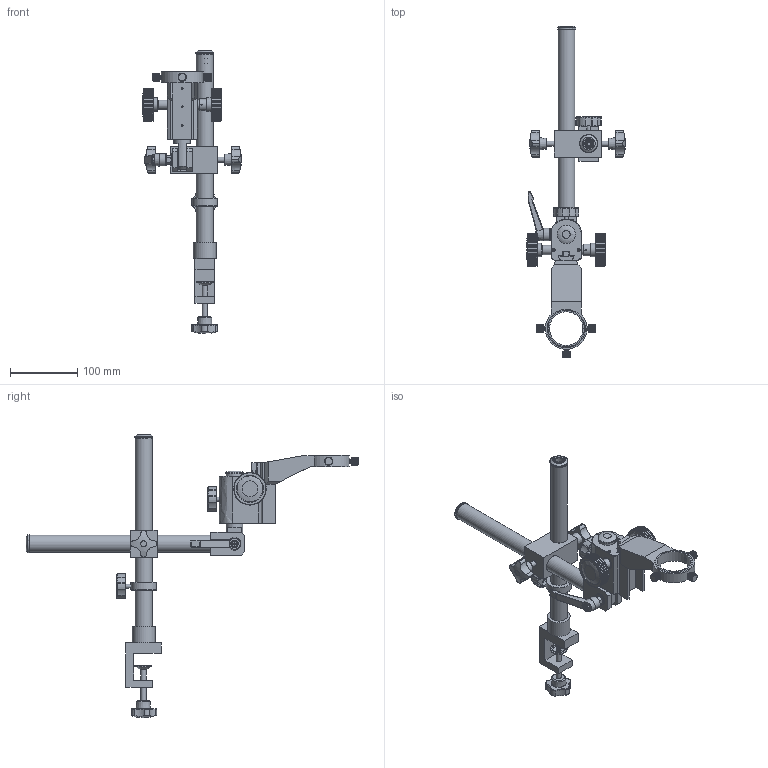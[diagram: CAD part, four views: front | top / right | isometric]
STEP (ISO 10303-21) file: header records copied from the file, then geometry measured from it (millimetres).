
FILE_DESCRIPTION(('STEP AP214'),'1');
FILE_NAME('GR-STD10.stp','2026-04-22T01:33:54',(' '),(' '),'Spatial InterOp 3D',' ',' ');
FILE_SCHEMA(('AUTOMOTIVE_DESIGN { 1 0 10303 214 1 1 1 1 }'));
Length unit declared in the file: metre
Products named in the file (6): GR-STD10; Component1; Component2; Component3; Component4; Component5
Assembly tree (5 placements, depth 2):
  GR-STD10
    Component1
    Component2
    Component3
    Component4
    Component5
Bounding box: 147.11 x 493.49 x 420.9 mm (x, y, z)
Volume: 695446.1 mm3; surface area: 263371.5 mm2
Topology: 12 solids, 13 shells, 3332 faces, 7983 edges, 4816 vertices
Faces by surface type: plane 2396, cylinder 653, bspline 155, torus 68, cone 53, sphere 7
Full cylindrical faces by diameter (mm): 1.5 x4, 2.5 x3, 3.9 x2, 4 x4, 4.6 x3, 4.8 x3, 5 x1, 5.5 x4, 5.7 x3, 5.8 x1, 6 x2, 6.5 x1, 6.9 x1, 7 x3, 7.3 x1, 8 x6, 8.3 x1, 9.3 x1, 9.8 x2, 9.9 x2, 10 x5, 11 x1, 11.7 x7, 12.1 x1, 12.4 x1, 12.9 x1, 13.1 x1, 13.9 x1, 14 x2, 14.5 x1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
Entity records: 211555 total; most frequent: CARTESIAN_POINT 70487, DIRECTION 15704, ORIENTED_EDGE 15334, STYLED_ITEM 11011, PRESENTATION_STYLE_ASSIGNMENT 11011, COLOUR_RGB 11011, EDGE_CURVE 7667, CURVE_STYLE 7667
